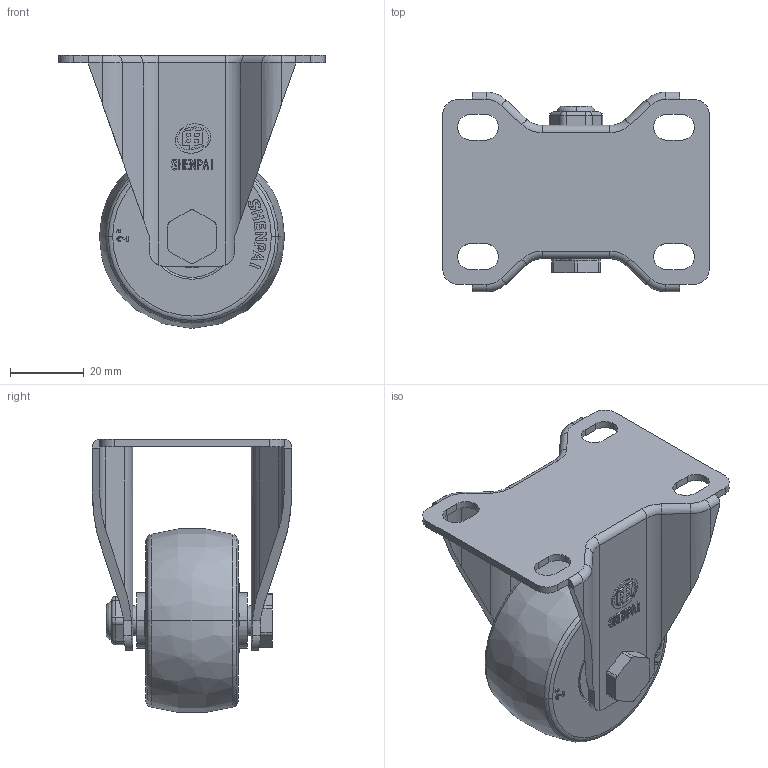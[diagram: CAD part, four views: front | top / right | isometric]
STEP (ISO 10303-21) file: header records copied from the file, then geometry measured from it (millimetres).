
FILE_DESCRIPTION(/* description */ (''),/* implementation_level */ '2;1');
FILE_NAME(/* name */ '18A08_2_F.stp',/* time_stamp */ '2022-10-06T14:22:04+08:00',/* author */ (''),/* organization */ (''),/* preprocessor_version */ 'ST-DEVELOPER v14',/* originating_system */ 'SIEMENS PLM Software NX 8.0',/* authorisation */ '');
FILE_SCHEMA (('AUTOMOTIVE_DESIGN { 1 0 10303 214 3 1 1 1 }'));
Length unit declared in the file: millimetre
Products named in the file (1): 18A08_2_F
Bounding box: 72 x 54 x 73.81 mm (x, y, z)
Volume: 59518.4 mm3; surface area: 26995.5 mm2
Topology: 1 solids, 4 shells, 791 faces, 2093 edges, 1374 vertices
Faces by surface type: plane 488, cylinder 177, extrusion 78, torus 36, cone 6, bspline 6
Entity records: 25735 total; most frequent: CARTESIAN_POINT 6472, ORIENTED_EDGE 4186, DIRECTION 3615, EDGE_CURVE 2093, VERTEX_POINT 1374, VECTOR 1329, LINE 1251, AXIS2_PLACEMENT_3D 1143
